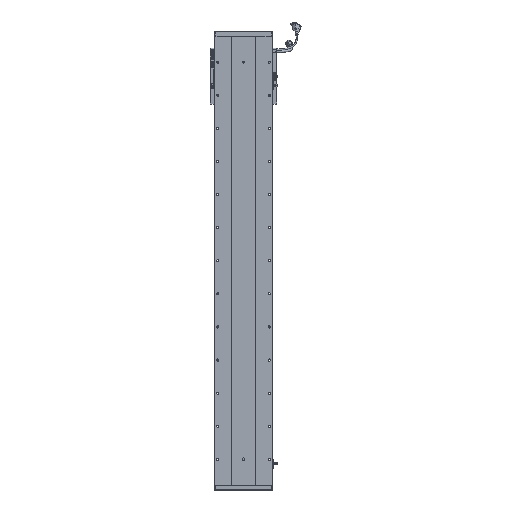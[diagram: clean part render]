
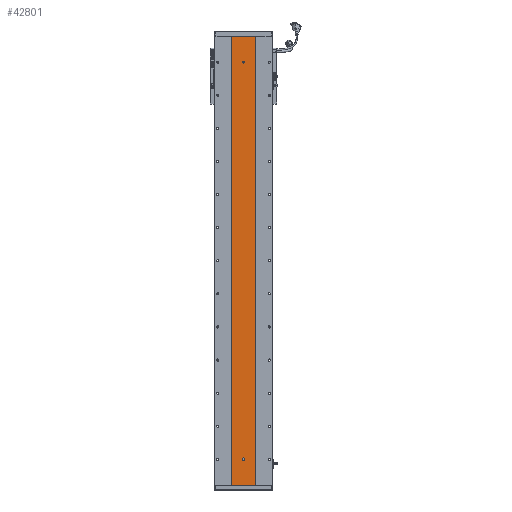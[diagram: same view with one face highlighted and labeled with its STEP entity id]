
A CAD part, front view. The second image highlights one B-rep face of the part: STEP entity #42801.
In plain terms, the highlighted planar face has unit normal (0, -1, 0).
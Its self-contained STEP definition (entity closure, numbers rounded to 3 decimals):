
#33 = EDGE_LOOP ( 'NONE', ( #7468, #46917 ) ) ;
#426 = VERTEX_POINT ( 'NONE', #56849 ) ;
#1664 = LINE ( 'NONE', #6838, #34245 ) ;
#2162 = EDGE_LOOP ( 'NONE', ( #42785, #29134, #78521, #90285 ) ) ;
#2590 = LINE ( 'NONE', #80157, #72292 ) ;
#2978 = LINE ( 'NONE', #33340, #59954 ) ;
#3306 = ORIENTED_EDGE ( 'NONE', *, *, #47367, .F. ) ;
#6838 = CARTESIAN_POINT ( 'NONE',  ( 3283.529, 1415.701, 80. ) ) ;
#6885 = DIRECTION ( 'NONE',  ( 0., 0., 1. ) ) ;
#7332 = CARTESIAN_POINT ( 'NONE',  ( 3244.748, 1415.701, 1357. ) ) ;
#7468 = ORIENTED_EDGE ( 'NONE', *, *, #44910, .F. ) ;
#11278 = ORIENTED_EDGE ( 'NONE', *, *, #33159, .F. ) ;
#12152 = DIRECTION ( 'NONE',  ( 0., 0., -1. ) ) ;
#12478 = CARTESIAN_POINT ( 'NONE',  ( 3280.529, 1415.701, 80. ) ) ;
#12709 = DIRECTION ( 'NONE',  ( 0., -1., 0. ) ) ;
#13095 = CARTESIAN_POINT ( 'NONE',  ( 3316.311, 1415.701, 1357. ) ) ;
#14667 = CARTESIAN_POINT ( 'NONE',  ( 3283.529, 1415.701, 80. ) ) ;
#14926 = ORIENTED_EDGE ( 'NONE', *, *, #92208, .F. ) ;
#15425 = VERTEX_POINT ( 'NONE', #72741 ) ;
#15494 = CIRCLE ( 'NONE', #17933, 3. ) ;
#16879 = DIRECTION ( 'NONE',  ( 0., -1., 0. ) ) ;
#16922 = CIRCLE ( 'NONE', #38105, 3. ) ;
#17016 = EDGE_CURVE ( 'NONE', #80287, #45132, #77365, .T. ) ;
#17663 = VERTEX_POINT ( 'NONE', #40585 ) ;
#17933 = AXIS2_PLACEMENT_3D ( 'NONE', #25668, #54240, #38929 ) ;
#17964 = VECTOR ( 'NONE', #52878, 1000. ) ;
#21818 = FACE_BOUND ( 'NONE', #33, .T. ) ;
#23603 = AXIS2_PLACEMENT_3D ( 'NONE', #83790, #16879, #24049 ) ;
#24049 = DIRECTION ( 'NONE',  ( 0., 0., -1. ) ) ;
#25668 = CARTESIAN_POINT ( 'NONE',  ( 3280.529, 1415.701, 77. ) ) ;
#25993 = CARTESIAN_POINT ( 'NONE',  ( 3316.311, 1415.701, 0. ) ) ;
#26019 = VERTEX_POINT ( 'NONE', #31518 ) ;
#29134 = ORIENTED_EDGE ( 'NONE', *, *, #72427, .F. ) ;
#31518 = CARTESIAN_POINT ( 'NONE',  ( 3277.529, 1415.701, 80. ) ) ;
#32256 = EDGE_CURVE ( 'NONE', #79467, #87815, #2978, .T. ) ;
#33159 = EDGE_CURVE ( 'NONE', #92348, #70507, #1664, .T. ) ;
#33340 = CARTESIAN_POINT ( 'NONE',  ( 3244.748, 1415.701, 0. ) ) ;
#34245 = VECTOR ( 'NONE', #81223, 1000. ) ;
#36400 = AXIS2_PLACEMENT_3D ( 'NONE', #82554, #38084, #6885 ) ;
#38084 = DIRECTION ( 'NONE',  ( 0., 1., 0. ) ) ;
#38105 = AXIS2_PLACEMENT_3D ( 'NONE', #12478, #78714, #87183 ) ;
#38929 = DIRECTION ( 'NONE',  ( 0., 0., -1. ) ) ;
#38959 = AXIS2_PLACEMENT_3D ( 'NONE', #62463, #54384, #77013 ) ;
#40585 = CARTESIAN_POINT ( 'NONE',  ( 3316.311, 1415.701, 1357. ) ) ;
#42785 = ORIENTED_EDGE ( 'NONE', *, *, #32256, .T. ) ;
#42801 = ADVANCED_FACE ( 'NONE', ( #82162, #21818, #67062 ), #88761, .F. ) ;
#44910 = EDGE_CURVE ( 'NONE', #45132, #80287, #69150, .T. ) ;
#45132 = VERTEX_POINT ( 'NONE', #52004 ) ;
#45580 = EDGE_CURVE ( 'NONE', #58520, #79467, #72514, .T. ) ;
#45827 = CARTESIAN_POINT ( 'NONE',  ( 3280.529, 1415.701, 1281.5 ) ) ;
#46917 = ORIENTED_EDGE ( 'NONE', *, *, #17016, .F. ) ;
#47367 = EDGE_CURVE ( 'NONE', #426, #15425, #64125, .T. ) ;
#49679 = AXIS2_PLACEMENT_3D ( 'NONE', #49783, #12709, #64683 ) ;
#49783 = CARTESIAN_POINT ( 'NONE',  ( 3280.529, 1415.701, 1278.5 ) ) ;
#50692 = CARTESIAN_POINT ( 'NONE',  ( 3283.529, 1415.701, 77. ) ) ;
#51150 = ORIENTED_EDGE ( 'NONE', *, *, #63428, .F. ) ;
#52004 = CARTESIAN_POINT ( 'NONE',  ( 3280.529, 1415.701, 1275.5 ) ) ;
#52878 = DIRECTION ( 'NONE',  ( 0., 0., -1. ) ) ;
#54240 = DIRECTION ( 'NONE',  ( 0., -1., 0. ) ) ;
#54384 = DIRECTION ( 'NONE',  ( 0., -1., 0. ) ) ;
#56849 = CARTESIAN_POINT ( 'NONE',  ( 3277.529, 1415.701, 77. ) ) ;
#56850 = EDGE_LOOP ( 'NONE', ( #3306, #14926, #59153, #11278, #51150 ) ) ;
#57423 = CARTESIAN_POINT ( 'NONE',  ( 3244.748, 1415.701, 0. ) ) ;
#58147 = LINE ( 'NONE', #13095, #62800 ) ;
#58416 = DIRECTION ( 'NONE',  ( 1., 0., 0. ) ) ;
#58520 = VERTEX_POINT ( 'NONE', #85837 ) ;
#59153 = ORIENTED_EDGE ( 'NONE', *, *, #94515, .F. ) ;
#59954 = VECTOR ( 'NONE', #70982, 1000. ) ;
#62463 = CARTESIAN_POINT ( 'NONE',  ( 3280.529, 1415.701, 1278.5 ) ) ;
#62800 = VECTOR ( 'NONE', #12152, 1000. ) ;
#63428 = EDGE_CURVE ( 'NONE', #15425, #92348, #15494, .T. ) ;
#64022 = EDGE_CURVE ( 'NONE', #58520, #17663, #2590, .T. ) ;
#64125 = CIRCLE ( 'NONE', #23603, 3. ) ;
#64683 = DIRECTION ( 'NONE',  ( 0., 0., -1. ) ) ;
#64940 = LINE ( 'NONE', #94509, #83453 ) ;
#67062 = FACE_OUTER_BOUND ( 'NONE', #2162, .T. ) ;
#69150 = CIRCLE ( 'NONE', #49679, 3. ) ;
#70507 = VERTEX_POINT ( 'NONE', #14667 ) ;
#70982 = DIRECTION ( 'NONE',  ( 1., 0., 0. ) ) ;
#72292 = VECTOR ( 'NONE', #58416, 1000. ) ;
#72427 = EDGE_CURVE ( 'NONE', #17663, #87815, #58147, .T. ) ;
#72514 = LINE ( 'NONE', #7332, #17964 ) ;
#72741 = CARTESIAN_POINT ( 'NONE',  ( 3280.529, 1415.701, 74. ) ) ;
#77013 = DIRECTION ( 'NONE',  ( 0., 0., -1. ) ) ;
#77365 = CIRCLE ( 'NONE', #38959, 3. ) ;
#78521 = ORIENTED_EDGE ( 'NONE', *, *, #64022, .F. ) ;
#78714 = DIRECTION ( 'NONE',  ( 0., -1., 0. ) ) ;
#79467 = VERTEX_POINT ( 'NONE', #57423 ) ;
#79536 = DIRECTION ( 'NONE',  ( 0., 0., -1. ) ) ;
#80157 = CARTESIAN_POINT ( 'NONE',  ( 3244.748, 1415.701, 1357. ) ) ;
#80287 = VERTEX_POINT ( 'NONE', #45827 ) ;
#81223 = DIRECTION ( 'NONE',  ( 0., 0., 1. ) ) ;
#82162 = FACE_BOUND ( 'NONE', #56850, .T. ) ;
#82554 = CARTESIAN_POINT ( 'NONE',  ( 3244.748, 1415.701, 1357. ) ) ;
#83453 = VECTOR ( 'NONE', #79536, 1000. ) ;
#83790 = CARTESIAN_POINT ( 'NONE',  ( 3280.529, 1415.701, 77. ) ) ;
#85837 = CARTESIAN_POINT ( 'NONE',  ( 3244.748, 1415.701, 1357. ) ) ;
#87183 = DIRECTION ( 'NONE',  ( 0., 0., -1. ) ) ;
#87815 = VERTEX_POINT ( 'NONE', #25993 ) ;
#88761 = PLANE ( 'NONE',  #36400 ) ;
#90285 = ORIENTED_EDGE ( 'NONE', *, *, #45580, .T. ) ;
#92208 = EDGE_CURVE ( 'NONE', #26019, #426, #64940, .T. ) ;
#92348 = VERTEX_POINT ( 'NONE', #50692 ) ;
#94509 = CARTESIAN_POINT ( 'NONE',  ( 3277.529, 1415.701, 80. ) ) ;
#94515 = EDGE_CURVE ( 'NONE', #70507, #26019, #16922, .T. ) ;
